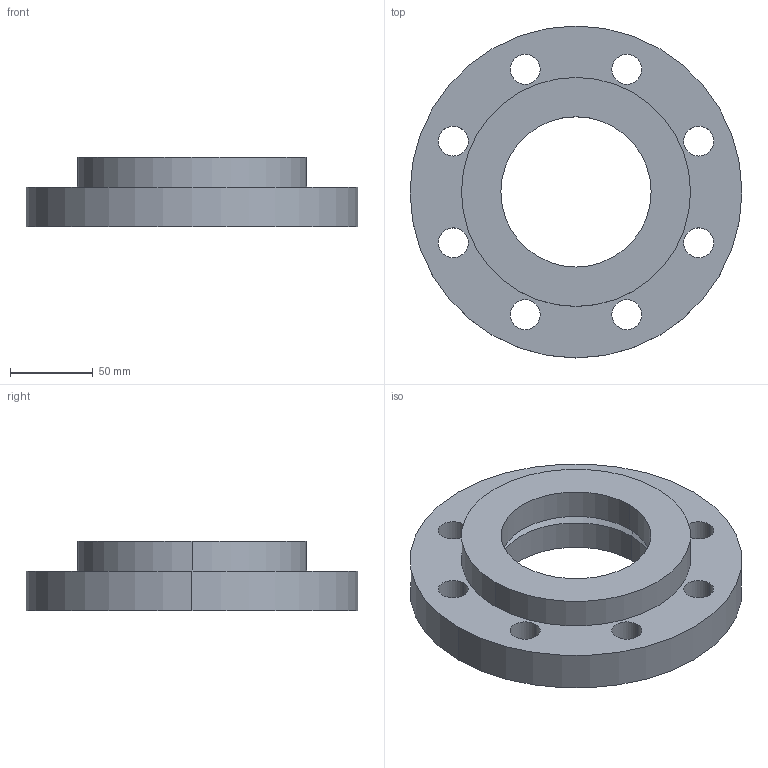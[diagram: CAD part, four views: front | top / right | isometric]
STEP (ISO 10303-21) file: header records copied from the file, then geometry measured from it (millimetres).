
FILE_DESCRIPTION (( 'STEP AP214' ), '1' );
FILE_NAME ('PN40 DN80 Type 02 in 32 - (Type A Face).STEP', '2019-01-01T19:46:46', ( '' ), ( '' ), 'SwSTEP 2.0', 'SolidWorks 2019', '' );
FILE_SCHEMA (( 'AUTOMOTIVE_DESIGN' ));
Length unit declared in the file: millimetre
Products named in the file (1): PN40 DN80 Type 02 in 32 - (Type A Face)
Bounding box: 200 x 200 x 42 mm (x, y, z)
Volume: 686469 mm3; surface area: 106884.5 mm2
Topology: 2 solids, 2 shells, 30 faces, 76 edges, 50 vertices
Faces by surface type: cylinder 24, plane 4, cone 2
Entity records: 1017 total; most frequent: DIRECTION 188, CARTESIAN_POINT 157, ORIENTED_EDGE 152, AXIS2_PLACEMENT_3D 81, EDGE_CURVE 76, VERTEX_POINT 50, CIRCLE 50, EDGE_LOOP 50
